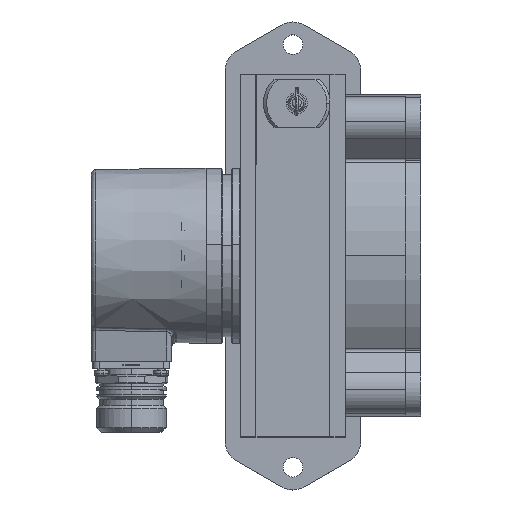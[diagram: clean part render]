
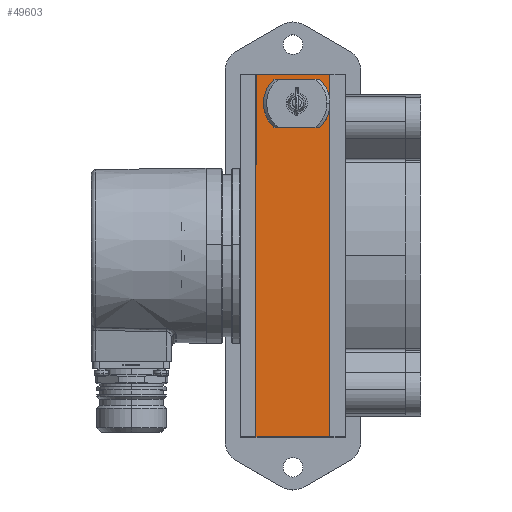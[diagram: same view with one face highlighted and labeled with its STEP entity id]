
A CAD part, top view. The second image highlights one B-rep face of the part: STEP entity #49603.
In plain terms, the highlighted planar face has unit normal (0, 0, 1).
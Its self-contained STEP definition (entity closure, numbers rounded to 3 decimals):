
#7302 = CARTESIAN_POINT ( 'NONE',  ( 8., 36.447, 68.584 ) ) ;
#8527 = FACE_BOUND ( 'NONE', #49592, .T. ) ;
#8528 = FACE_BOUND ( 'NONE', #49589, .T. ) ;
#8529 = FACE_BOUND ( 'NONE', #49659, .T. ) ;
#8530 = FACE_OUTER_BOUND ( 'NONE', #49604, .T. ) ;
#8531 = DIRECTION ( 'NONE',  ( 0., 1., 0. ) ) ;
#8532 = VECTOR ( 'NONE', #8531, 1000. ) ;
#8533 = CARTESIAN_POINT ( 'NONE',  ( 0., -73.853, 68.584 ) ) ;
#8534 = LINE ( 'NONE', #8533, #8532 ) ;
#8536 = CARTESIAN_POINT ( 'NONE',  ( 0., -73.853, 68.584 ) ) ;
#8565 = DIRECTION ( 'NONE',  ( 1., 0., 0. ) ) ;
#8566 = DIRECTION ( 'NONE',  ( 0., 0., -1. ) ) ;
#8567 = CARTESIAN_POINT ( 'NONE',  ( 0., -73.853, 68.584 ) ) ;
#8568 = AXIS2_PLACEMENT_3D ( 'NONE', #8567, #8566, #8565 ) ;
#8569 = PLANE ( 'NONE',  #8568 ) ;
#8745 = DIRECTION ( 'NONE',  ( 0., 1., 0. ) ) ;
#8746 = VECTOR ( 'NONE', #8745, 1000. ) ;
#8747 = CARTESIAN_POINT ( 'NONE',  ( 24.5, 46.147, 68.584 ) ) ;
#8748 = LINE ( 'NONE', #8747, #8746 ) ;
#8749 = CARTESIAN_POINT ( 'NONE',  ( 24.5, -73.853, 68.584 ) ) ;
#8750 = DIRECTION ( 'NONE',  ( 1., 0., 0. ) ) ;
#8751 = VECTOR ( 'NONE', #8750, 1000. ) ;
#8752 = CARTESIAN_POINT ( 'NONE',  ( 0., -73.853, 68.584 ) ) ;
#8753 = LINE ( 'NONE', #8752, #8751 ) ;
#17618 = CARTESIAN_POINT ( 'NONE',  ( 3.9, 36.447, 68.584 ) ) ;
#17619 = CARTESIAN_POINT ( 'NONE',  ( 7.1, 36.447, 68.584 ) ) ;
#17621 = DIRECTION ( 'NONE',  ( 1., 0., 0. ) ) ;
#17622 = DIRECTION ( 'NONE',  ( 0., 0., 1. ) ) ;
#17623 = CARTESIAN_POINT ( 'NONE',  ( 5.5, 36.447, 68.584 ) ) ;
#17624 = AXIS2_PLACEMENT_3D ( 'NONE', #17623, #17622, #17621 ) ;
#17629 = CIRCLE ( 'NONE', #17624, 1.6 ) ;
#17682 = CARTESIAN_POINT ( 'NONE',  ( 19.9, 36.447, 68.584 ) ) ;
#17683 = CARTESIAN_POINT ( 'NONE',  ( 23.1, 36.447, 68.584 ) ) ;
#17684 = DIRECTION ( 'NONE',  ( 1., 0., 0. ) ) ;
#17685 = DIRECTION ( 'NONE',  ( 0., 0., 1. ) ) ;
#17686 = CARTESIAN_POINT ( 'NONE',  ( 21.5, 36.447, 68.584 ) ) ;
#17687 = AXIS2_PLACEMENT_3D ( 'NONE', #17686, #17685, #17684 ) ;
#17688 = CIRCLE ( 'NONE', #17687, 1.6 ) ;
#17722 = DIRECTION ( 'NONE',  ( -1., 0., 0. ) ) ;
#17724 = DIRECTION ( 'NONE',  ( 0., 0., 1. ) ) ;
#17726 = CARTESIAN_POINT ( 'NONE',  ( 13.5, 36.447, 68.584 ) ) ;
#17728 = AXIS2_PLACEMENT_3D ( 'NONE', #17726, #17724, #17722 ) ;
#17729 = CIRCLE ( 'NONE', #17728, 5.5 ) ;
#17753 = CARTESIAN_POINT ( 'NONE',  ( 19., 36.447, 68.584 ) ) ;
#18555 = DIRECTION ( 'NONE',  ( -1., 0., 0. ) ) ;
#18556 = DIRECTION ( 'NONE',  ( 0., 0., 1. ) ) ;
#18557 = CARTESIAN_POINT ( 'NONE',  ( 13.5, 36.447, 68.584 ) ) ;
#18558 = AXIS2_PLACEMENT_3D ( 'NONE', #18557, #18556, #18555 ) ;
#18560 = CIRCLE ( 'NONE', #18558, 5.5 ) ;
#18603 = DIRECTION ( 'NONE',  ( 1., 0., 0. ) ) ;
#18606 = DIRECTION ( 'NONE',  ( 0., 0., 1. ) ) ;
#18608 = CARTESIAN_POINT ( 'NONE',  ( 5.5, 36.447, 68.584 ) ) ;
#18610 = AXIS2_PLACEMENT_3D ( 'NONE', #18608, #18606, #18603 ) ;
#18612 = CIRCLE ( 'NONE', #18610, 1.6 ) ;
#18658 = CARTESIAN_POINT ( 'NONE',  ( 21.5, 36.447, 68.584 ) ) ;
#18764 = DIRECTION ( 'NONE',  ( 1., 0., 0. ) ) ;
#18766 = DIRECTION ( 'NONE',  ( 0., 0., 1. ) ) ;
#18768 = AXIS2_PLACEMENT_3D ( 'NONE', #18658, #18766, #18764 ) ;
#18770 = CIRCLE ( 'NONE', #18768, 1.6 ) ;
#18884 = CARTESIAN_POINT ( 'NONE',  ( 24.5, 46.147, 68.584 ) ) ;
#18885 = DIRECTION ( 'NONE',  ( 1., 0., 0. ) ) ;
#18886 = VECTOR ( 'NONE', #18885, 1000. ) ;
#18887 = CARTESIAN_POINT ( 'NONE',  ( 0., 46.147, 68.584 ) ) ;
#18888 = LINE ( 'NONE', #18887, #18886 ) ;
#18889 = CARTESIAN_POINT ( 'NONE',  ( 0., 46.147, 68.584 ) ) ;
#45873 = VERTEX_POINT ( 'NONE', #7302 ) ;
#49589 = EDGE_LOOP ( 'NONE', ( #49590, #49591 ) ) ;
#49590 = ORIENTED_EDGE ( 'NONE', *, *, #51312, .F. ) ;
#49591 = ORIENTED_EDGE ( 'NONE', *, *, #51444, .F. ) ;
#49592 = EDGE_LOOP ( 'NONE', ( #49641, #49642 ) ) ;
#49598 = VERTEX_POINT ( 'NONE', #8536 ) ;
#49600 = EDGE_CURVE ( 'NONE', #49598, #51484, #8534, .T. ) ;
#49603 = ADVANCED_FACE ( 'NONE', ( #8530, #8529, #8528, #8527 ), #8569, .F. ) ;
#49604 = EDGE_LOOP ( 'NONE', ( #49652, #49653, #49654, #49657 ) ) ;
#49641 = ORIENTED_EDGE ( 'NONE', *, *, #51292, .F. ) ;
#49642 = ORIENTED_EDGE ( 'NONE', *, *, #51435, .F. ) ;
#49652 = ORIENTED_EDGE ( 'NONE', *, *, #51486, .F. ) ;
#49653 = ORIENTED_EDGE ( 'NONE', *, *, #49600, .F. ) ;
#49654 = ORIENTED_EDGE ( 'NONE', *, *, #49655, .T. ) ;
#49655 = EDGE_CURVE ( 'NONE', #49598, #49656, #8753, .T. ) ;
#49656 = VERTEX_POINT ( 'NONE', #8749 ) ;
#49657 = ORIENTED_EDGE ( 'NONE', *, *, #49658, .T. ) ;
#49658 = EDGE_CURVE ( 'NONE', #49656, #51487, #8748, .T. ) ;
#49659 = EDGE_LOOP ( 'NONE', ( #49660, #49661 ) ) ;
#49660 = ORIENTED_EDGE ( 'NONE', *, *, #51429, .F. ) ;
#49661 = ORIENTED_EDGE ( 'NONE', *, *, #51330, .F. ) ;
#51292 = EDGE_CURVE ( 'NONE', #51295, #51296, #17629, .T. ) ;
#51295 = VERTEX_POINT ( 'NONE', #17619 ) ;
#51296 = VERTEX_POINT ( 'NONE', #17618 ) ;
#51312 = EDGE_CURVE ( 'NONE', #51313, #51314, #17688, .T. ) ;
#51313 = VERTEX_POINT ( 'NONE', #17683 ) ;
#51314 = VERTEX_POINT ( 'NONE', #17682 ) ;
#51326 = VERTEX_POINT ( 'NONE', #17753 ) ;
#51330 = EDGE_CURVE ( 'NONE', #51326, #45873, #17729, .T. ) ;
#51429 = EDGE_CURVE ( 'NONE', #45873, #51326, #18560, .T. ) ;
#51435 = EDGE_CURVE ( 'NONE', #51296, #51295, #18612, .T. ) ;
#51444 = EDGE_CURVE ( 'NONE', #51314, #51313, #18770, .T. ) ;
#51484 = VERTEX_POINT ( 'NONE', #18889 ) ;
#51486 = EDGE_CURVE ( 'NONE', #51484, #51487, #18888, .T. ) ;
#51487 = VERTEX_POINT ( 'NONE', #18884 ) ;
